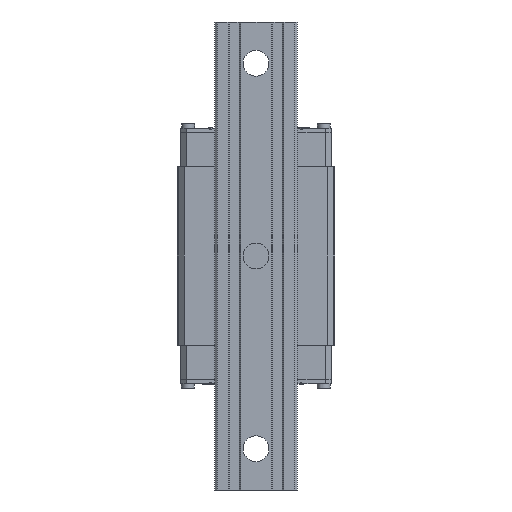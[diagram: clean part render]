
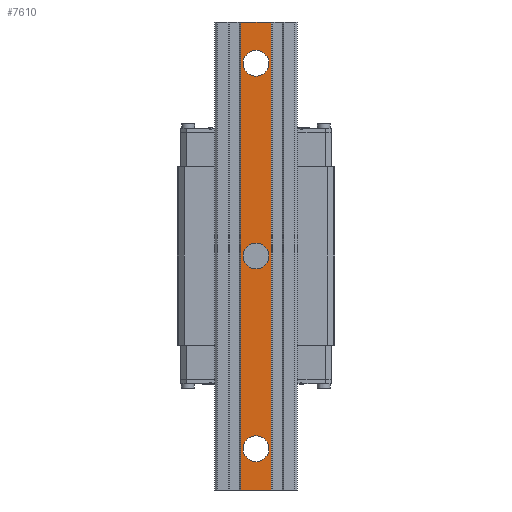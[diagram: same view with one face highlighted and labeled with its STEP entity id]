
A CAD part, front view. The second image highlights one B-rep face of the part: STEP entity #7610.
In plain terms, the highlighted planar face has unit normal (0, -1, 0).
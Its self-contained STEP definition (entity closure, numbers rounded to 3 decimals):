
#7185=FACE_BOUND('',#9923,.T.);
#7186=FACE_BOUND('',#9924,.T.);
#7187=FACE_BOUND('',#9925,.T.);
#7188=FACE_BOUND('',#9926,.T.);
#7610=ADVANCED_FACE('',(#7185,#7186,#7187,#7188),#8527,.T.);
#8527=PLANE('',#23108);
#9923=EDGE_LOOP('',(#11439,#11440,#11441,#11442));
#9924=EDGE_LOOP('',(#11443,#11444));
#9925=EDGE_LOOP('',(#11445,#11446));
#9926=EDGE_LOOP('',(#11447,#11448));
#10998=CIRCLE('',#23102,7.);
#10999=CIRCLE('',#23103,7.);
#11000=CIRCLE('',#23104,7.);
#11001=CIRCLE('',#23105,7.);
#11002=CIRCLE('',#23106,7.);
#11003=CIRCLE('',#23107,7.);
#11439=ORIENTED_EDGE('',*,*,#17612,.T.);
#11440=ORIENTED_EDGE('',*,*,#17613,.F.);
#11441=ORIENTED_EDGE('',*,*,#17614,.F.);
#11442=ORIENTED_EDGE('',*,*,#17550,.T.);
#11443=ORIENTED_EDGE('',*,*,#17615,.T.);
#11444=ORIENTED_EDGE('',*,*,#17616,.T.);
#11445=ORIENTED_EDGE('',*,*,#17617,.T.);
#11446=ORIENTED_EDGE('',*,*,#17618,.T.);
#11447=ORIENTED_EDGE('',*,*,#17619,.T.);
#11448=ORIENTED_EDGE('',*,*,#17620,.T.);
#16001=VERTEX_POINT('',#28152);
#16002=VERTEX_POINT('',#28154);
#16044=VERTEX_POINT('',#28276);
#16045=VERTEX_POINT('',#28280);
#16046=VERTEX_POINT('',#28283);
#16047=VERTEX_POINT('',#28284);
#16048=VERTEX_POINT('',#28287);
#16049=VERTEX_POINT('',#28288);
#16050=VERTEX_POINT('',#28291);
#16051=VERTEX_POINT('',#28292);
#17550=EDGE_CURVE('',#16002,#16001,#19875,.T.);
#17612=EDGE_CURVE('',#16001,#16044,#19922,.T.);
#17613=EDGE_CURVE('',#16045,#16044,#19923,.T.);
#17614=EDGE_CURVE('',#16002,#16045,#19924,.T.);
#17615=EDGE_CURVE('',#16046,#16047,#10998,.T.);
#17616=EDGE_CURVE('',#16047,#16046,#10999,.T.);
#17617=EDGE_CURVE('',#16048,#16049,#11000,.T.);
#17618=EDGE_CURVE('',#16049,#16048,#11001,.T.);
#17619=EDGE_CURVE('',#16050,#16051,#11002,.T.);
#17620=EDGE_CURVE('',#16051,#16050,#11003,.T.);
#19875=LINE('',#28153,#21425);
#19922=LINE('',#28277,#21472);
#19923=LINE('',#28279,#21473);
#19924=LINE('',#28281,#21474);
#21425=VECTOR('',#24222,1.);
#21472=VECTOR('',#24337,1.);
#21473=VECTOR('',#24340,1.);
#21474=VECTOR('',#24341,1.);
#23102=AXIS2_PLACEMENT_3D('',#28282,#24342,#24343);
#23103=AXIS2_PLACEMENT_3D('',#28285,#24344,#24345);
#23104=AXIS2_PLACEMENT_3D('',#28286,#24346,#24347);
#23105=AXIS2_PLACEMENT_3D('',#28289,#24348,#24349);
#23106=AXIS2_PLACEMENT_3D('',#28290,#24350,#24351);
#23107=AXIS2_PLACEMENT_3D('',#28293,#24352,#24353);
#23108=AXIS2_PLACEMENT_3D('',#28294,#24354,#24355);
#24222=DIRECTION('',(1.,0.,0.));
#24337=DIRECTION('',(0.,0.,1.));
#24340=DIRECTION('',(1.,0.,0.));
#24341=DIRECTION('',(0.,0.,1.));
#24342=DIRECTION('',(0.,1.,0.));
#24343=DIRECTION('',(1.,0.,0.));
#24344=DIRECTION('',(0.,1.,0.));
#24345=DIRECTION('',(-1.,0.,0.));
#24346=DIRECTION('',(0.,1.,0.));
#24347=DIRECTION('',(1.,0.,0.));
#24348=DIRECTION('',(0.,1.,0.));
#24349=DIRECTION('',(-1.,0.,0.));
#24350=DIRECTION('',(0.,1.,0.));
#24351=DIRECTION('',(1.,0.,0.));
#24352=DIRECTION('',(0.,1.,0.));
#24353=DIRECTION('',(-1.,0.,0.));
#24354=DIRECTION('',(0.,-1.,0.));
#24355=DIRECTION('',(1.,0.,0.));
#28152=CARTESIAN_POINT('',(8.25,-38.,-127.5));
#28153=CARTESIAN_POINT('',(-8.25,-38.,-127.5));
#28154=CARTESIAN_POINT('',(-8.25,-38.,-127.5));
#28276=CARTESIAN_POINT('',(8.25,-38.,127.5));
#28277=CARTESIAN_POINT('',(8.25,-38.,-127.5));
#28279=CARTESIAN_POINT('',(-8.25,-38.,127.5));
#28280=CARTESIAN_POINT('',(-8.25,-38.,127.5));
#28281=CARTESIAN_POINT('',(-8.25,-38.,-127.5));
#28282=CARTESIAN_POINT('',(0.,-38.,0.));
#28283=CARTESIAN_POINT('',(7.,-38.,0.));
#28284=CARTESIAN_POINT('',(-7.,-38.,0.));
#28285=CARTESIAN_POINT('',(0.,-38.,0.));
#28286=CARTESIAN_POINT('',(0.,-38.,105.));
#28287=CARTESIAN_POINT('',(7.,-38.,105.));
#28288=CARTESIAN_POINT('',(-7.,-38.,105.));
#28289=CARTESIAN_POINT('',(0.,-38.,105.));
#28290=CARTESIAN_POINT('',(0.,-38.,-105.));
#28291=CARTESIAN_POINT('',(7.,-38.,-105.));
#28292=CARTESIAN_POINT('',(-7.,-38.,-105.));
#28293=CARTESIAN_POINT('',(0.,-38.,-105.));
#28294=CARTESIAN_POINT('',(-8.25,-38.,-127.5));
